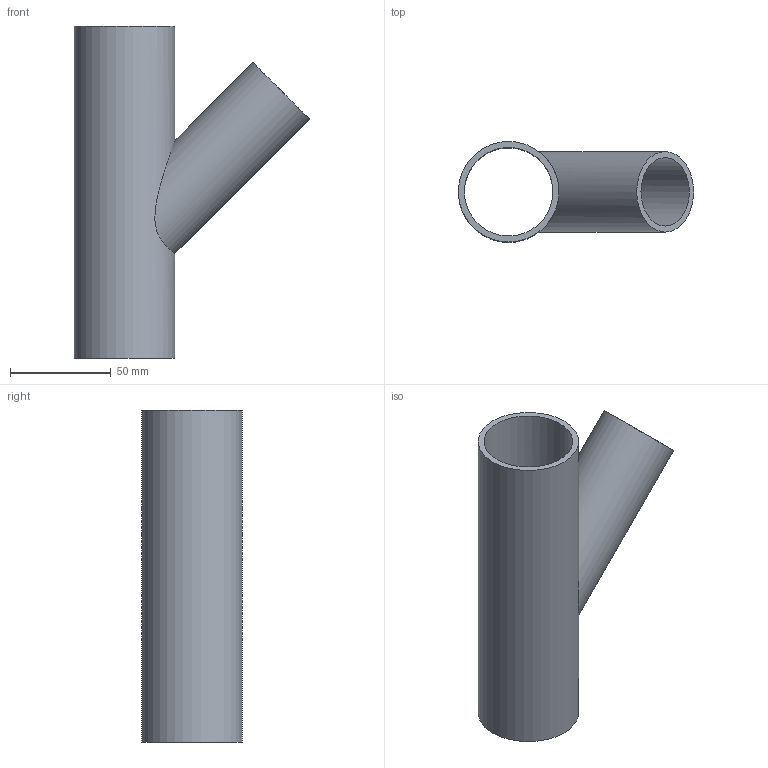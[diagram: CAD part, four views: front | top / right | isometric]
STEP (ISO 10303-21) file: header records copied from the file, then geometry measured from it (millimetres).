
FILE_DESCRIPTION(/* description */ (''),/* implementation_level */ '2;1');
FILE_NAME(/* name */ 'C:\Planerdaten\Export PLA\PRO_101557\stp\361109.stp',/* time_stamp */ '2021-09-30T15:03:29+02:00',/* author */ ('JANAN'),/* organization */ (''),/* preprocessor_version */ 'ST-DEVELOPER v16.13',/* originating_system */ 'Autodesk Inventor 2018',/* authorisation */ '');
FILE_SCHEMA (('AUTOMOTIVE_DESIGN { 1 0 10303 214 3 1 1 }'));
Length unit declared in the file: millimetre
Products named in the file (1): tmpFFA3.tmp
Bounding box: 116.92 x 50 x 165 mm (x, y, z)
Volume: 96835.3 mm3; surface area: 65782 mm2
Topology: 1 solids, 1 shells, 7 faces, 17 edges, 12 vertices
Faces by surface type: cylinder 4, plane 3
Full cylindrical faces by diameter (mm): 34 x1, 40 x1, 44 x1, 50 x1
Entity records: 324 total; most frequent: CARTESIAN_POINT 146, DIRECTION 28, EDGE_LOOP 16, ORIENTED_EDGE 16, AXIS2_PLACEMENT_3D 14, FACE_BOUND 9, VERTEX_POINT 8, EDGE_CURVE 8
